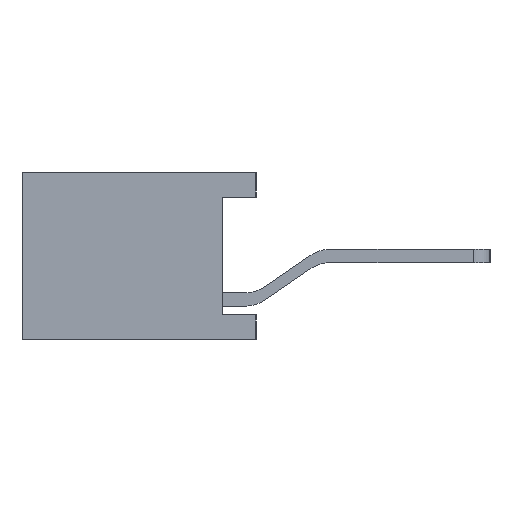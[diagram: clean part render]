
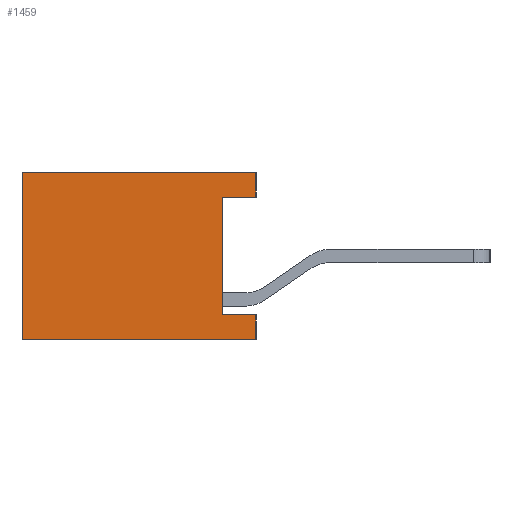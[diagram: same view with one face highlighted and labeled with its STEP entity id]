
A CAD part, left-side view. The second image highlights one B-rep face of the part: STEP entity #1459.
In plain terms, the highlighted planar face has unit normal (-1, 0, 0).
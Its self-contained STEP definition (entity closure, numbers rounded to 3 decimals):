
#700=PLANE('',#15831);
#1459=ADVANCED_FACE('',(#2366),#700,.T.);
#2366=FACE_OUTER_BOUND('',#3188,.T.);
#3188=EDGE_LOOP('',(#10925,#10926,#10927,#10928,#10929,#10930,#10931,#10932));
#3254=LINE('',#19898,#5072);
#3439=LINE('',#20268,#5257);
#3441=LINE('',#20272,#5259);
#3443=LINE('',#20276,#5261);
#3452=LINE('',#20293,#5270);
#3569=LINE('',#20526,#5387);
#3574=LINE('',#20537,#5392);
#3576=LINE('',#20541,#5394);
#5072=VECTOR('',#15959,1.);
#5257=VECTOR('',#16150,1.);
#5259=VECTOR('',#16154,1.);
#5261=VECTOR('',#16158,1.);
#5270=VECTOR('',#16177,1.);
#5387=VECTOR('',#16296,1.);
#5392=VECTOR('',#16313,1.);
#5394=VECTOR('',#16317,1.);
#10925=ORIENTED_EDGE('',*,*,#12464,.F.);
#10926=ORIENTED_EDGE('',*,*,#12649,.T.);
#10927=ORIENTED_EDGE('',*,*,#12651,.F.);
#10928=ORIENTED_EDGE('',*,*,#12653,.T.);
#10929=ORIENTED_EDGE('',*,*,#12662,.F.);
#10930=ORIENTED_EDGE('',*,*,#12779,.F.);
#10931=ORIENTED_EDGE('',*,*,#12786,.T.);
#10932=ORIENTED_EDGE('',*,*,#12784,.F.);
#11103=VERTEX_POINT('',#19897);
#11104=VERTEX_POINT('',#19899);
#11285=VERTEX_POINT('',#20267);
#11286=VERTEX_POINT('',#20271);
#11287=VERTEX_POINT('',#20275);
#11290=VERTEX_POINT('',#20292);
#11405=VERTEX_POINT('',#20525);
#11406=VERTEX_POINT('',#20538);
#12464=EDGE_CURVE('',#11103,#11104,#3254,.T.);
#12649=EDGE_CURVE('',#11103,#11285,#3439,.T.);
#12651=EDGE_CURVE('',#11286,#11285,#3441,.T.);
#12653=EDGE_CURVE('',#11286,#11287,#3443,.T.);
#12662=EDGE_CURVE('',#11290,#11287,#3452,.T.);
#12779=EDGE_CURVE('',#11405,#11290,#3569,.T.);
#12784=EDGE_CURVE('',#11104,#11406,#3574,.T.);
#12786=EDGE_CURVE('',#11405,#11406,#3576,.T.);
#15831=AXIS2_PLACEMENT_3D('',#23892,#19670,#19671);
#15959=DIRECTION('',(0.,0.,-1.));
#16150=DIRECTION('',(0.,-1.,0.));
#16154=DIRECTION('',(0.,0.,-1.));
#16158=DIRECTION('',(0.,1.,0.));
#16177=DIRECTION('',(0.,0.,1.));
#16296=DIRECTION('',(0.,1.,0.));
#16313=DIRECTION('',(0.,-1.,0.));
#16317=DIRECTION('',(0.,0.,1.));
#19670=DIRECTION('',(-1.,0.,0.));
#19671=DIRECTION('',(0.,0.,1.));
#19897=CARTESIAN_POINT('',(-64.57,0.5,-0.35));
#19898=CARTESIAN_POINT('',(-64.57,0.5,2.54));
#19899=CARTESIAN_POINT('',(-64.57,0.5,-2.11));
#20267=CARTESIAN_POINT('',(-64.57,0.,-0.35));
#20268=CARTESIAN_POINT('',(-64.57,0.,-0.35));
#20271=CARTESIAN_POINT('',(-64.57,0.,0.02));
#20272=CARTESIAN_POINT('',(-64.57,0.,-2.5));
#20275=CARTESIAN_POINT('',(-64.57,3.5,0.02));
#20276=CARTESIAN_POINT('',(-64.57,0.,0.02));
#20292=CARTESIAN_POINT('',(-64.57,3.5,-2.48));
#20293=CARTESIAN_POINT('',(-64.57,3.5,-2.5));
#20525=CARTESIAN_POINT('',(-64.57,0.,-2.48));
#20526=CARTESIAN_POINT('',(-64.57,0.,-2.48));
#20537=CARTESIAN_POINT('',(-64.57,0.,-2.11));
#20538=CARTESIAN_POINT('',(-64.57,0.,-2.11));
#20541=CARTESIAN_POINT('',(-64.57,0.,0.04));
#23892=CARTESIAN_POINT('',(-64.57,0.,2.54));
